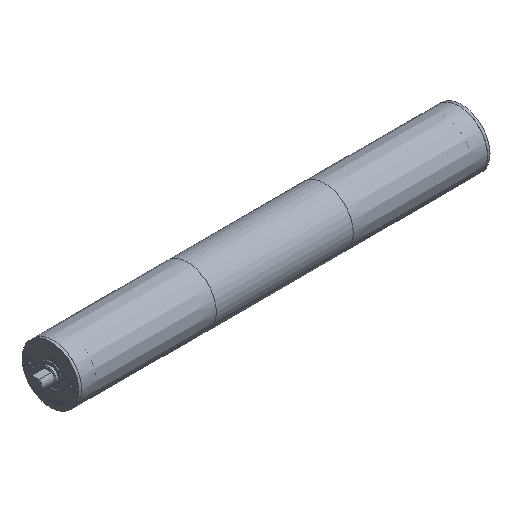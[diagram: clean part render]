
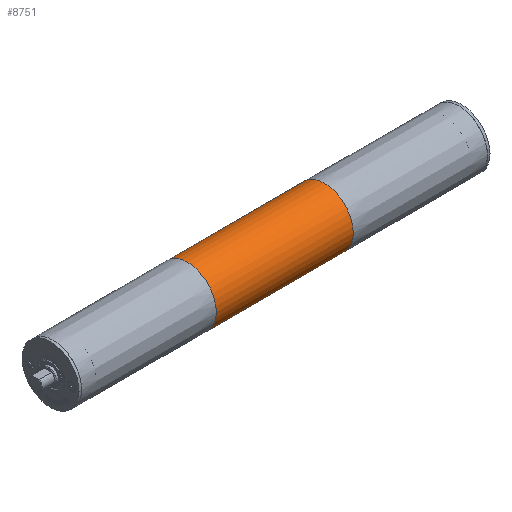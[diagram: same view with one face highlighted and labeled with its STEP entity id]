
A CAD part, isometric view. The second image highlights one B-rep face of the part: STEP entity #8751.
In plain terms, the highlighted cylindrical face has radius 56.75 mm (diameter 113.5 mm), a full revolution.
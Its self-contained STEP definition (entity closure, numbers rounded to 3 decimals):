
#96=FACE_BOUND('',#3604,.T.);
#720=CYLINDRICAL_SURFACE('',#9105,56.75);
#3031=FACE_OUTER_BOUND('',#3603,.T.);
#3603=EDGE_LOOP('',(#8237));
#3604=EDGE_LOOP('',(#8238));
#3687=CIRCLE('',#9106,56.75);
#3688=CIRCLE('',#9107,56.75);
#4539=VERTEX_POINT('',#15731);
#4540=VERTEX_POINT('',#15733);
#5777=EDGE_CURVE('',#4539,#4539,#3687,.T.);
#5778=EDGE_CURVE('',#4540,#4540,#3688,.T.);
#8237=ORIENTED_EDGE('',*,*,#5777,.T.);
#8238=ORIENTED_EDGE('',*,*,#5778,.F.);
#8751=ADVANCED_FACE('',(#3031,#96),#720,.T.);
#9105=AXIS2_PLACEMENT_3D('',#15730,#10575,#10576);
#9106=AXIS2_PLACEMENT_3D('',#15732,#10577,#10578);
#9107=AXIS2_PLACEMENT_3D('',#15734,#10579,#10580);
#10575=DIRECTION('center_axis',(1.,0.,0.));
#10576=DIRECTION('ref_axis',(0.,1.,0.));
#10577=DIRECTION('center_axis',(1.,0.,0.));
#10578=DIRECTION('ref_axis',(0.,0.,-1.));
#10579=DIRECTION('center_axis',(1.,0.,0.));
#10580=DIRECTION('ref_axis',(0.,0.,-1.));
#15730=CARTESIAN_POINT('Origin',(0.,0.,0.));
#15731=CARTESIAN_POINT('',(-135.,56.75,0.));
#15732=CARTESIAN_POINT('Origin',(-135.,0.,
0.));
#15733=CARTESIAN_POINT('',(135.,56.75,0.));
#15734=CARTESIAN_POINT('Origin',(135.,0.,
0.));
